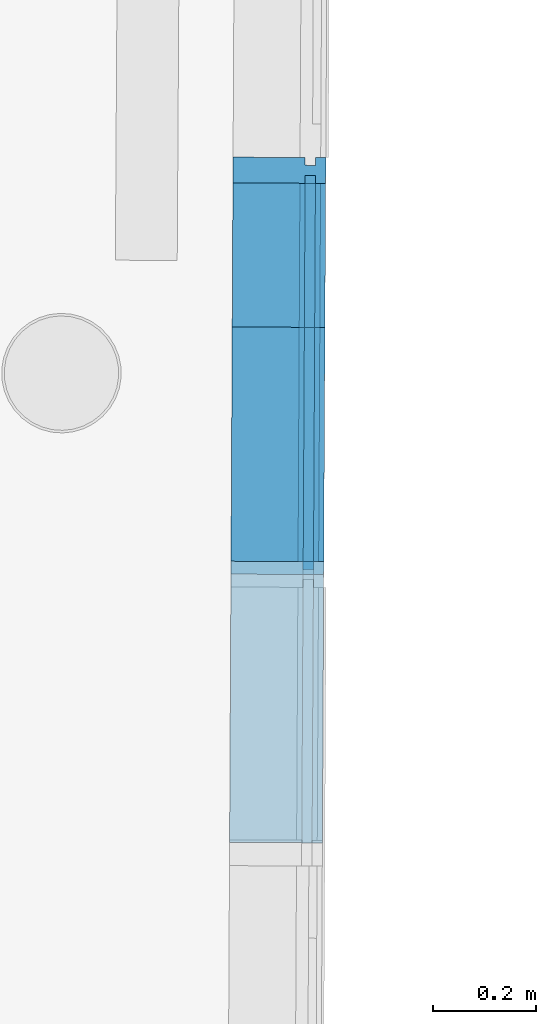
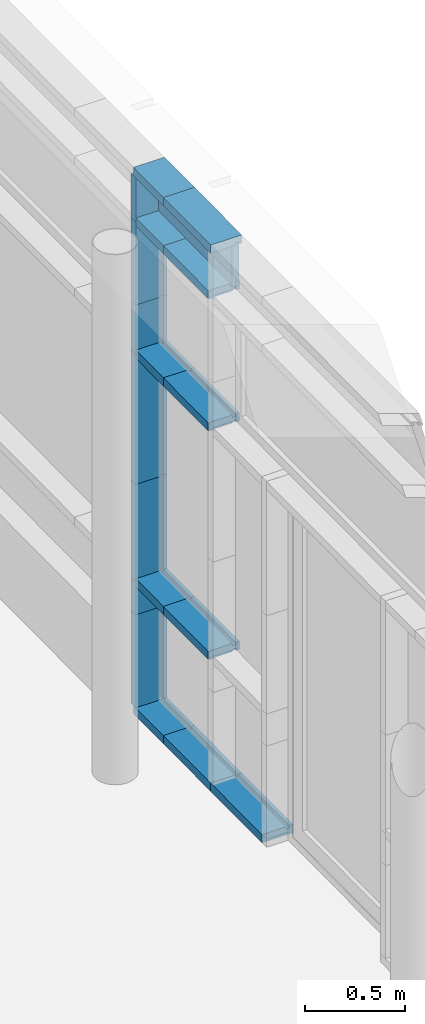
# One storey, part 183 of 196: 19 building element parts, 1 element without a shape of its own.
"""IFC2X3 building model written with IfcOpenShell, lengths in metres."""

from ifc_helpers import new_model, entity, si_unit, converted_unit, derived_unit, money_unit, direction, frame, origin_with_axes, place, context, subcontext, project, spatial, faceted_brep, material, type_object, element, aggregate, save


model = new_model("IFC2X3")

# Units and contexts
model_context = context("Model", 3, precision=1e-05, world=origin_with_axes(), true_north=direction((0.0, 1.0)))
body_context = subcontext(model_context, "Body", "Model", "MODEL_VIEW")
ifc_project = project(units=[si_unit("LENGTHUNIT", "METRE"), si_unit("AREAUNIT", "SQUARE_METRE"), si_unit("VOLUMEUNIT", "CUBIC_METRE"), converted_unit("PLANEANGLEUNIT", "DEGREE", entity("IfcPlaneAngleMeasure", 0.0174532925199), si_unit("PLANEANGLEUNIT", "RADIAN"), dimensions=[0, 0, 0, 0, 0, 0, 0]), money_unit("EUR"), converted_unit("TIMEUNIT", "Year", entity("IfcTimeMeasure", 31556926.0), si_unit("TIMEUNIT", "SECOND"), dimensions=[0, 0, 1, 0, 0, 0, 0]), si_unit("MASSUNIT", "GRAM", prefix="KILO"), si_unit("THERMODYNAMICTEMPERATUREUNIT", "DEGREE_CELSIUS"), si_unit("LUMINOUSINTENSITYUNIT", "LUMEN"), si_unit("ENERGYUNIT", "JOULE", prefix="MEGA"), derived_unit("THERMALCONDUCTANCEUNIT", [(si_unit("POWERUNIT", "WATT"), 1), (si_unit("LENGTHUNIT", "METRE"), -1), (si_unit("THERMODYNAMICTEMPERATUREUNIT", "KELVIN"), -1)]), derived_unit("SPECIFICHEATCAPACITYUNIT", [(si_unit("ENERGYUNIT", "JOULE"), 1), (si_unit("MASSUNIT", "GRAM", prefix="KILO"), -1), (si_unit("THERMODYNAMICTEMPERATUREUNIT", "KELVIN"), -1)]), derived_unit("MASSDENSITYUNIT", [(si_unit("MASSUNIT", "GRAM", prefix="KILO"), 1), (si_unit("VOLUMEUNIT", "CUBIC_METRE"), -1)])], contexts=[model_context])

# Site, building, storey
site_placement = place(None, origin_with_axes())
site = spatial("IfcSite", under=ifc_project, at=site_placement, Name="Gelände", CompositionType="ELEMENT")
building_placement = place(site_placement, origin_with_axes())
building = spatial("IfcBuilding", under=site, at=building_placement, Name="Gebäude", CompositionType="ELEMENT")
storey_placement = place(building_placement, frame((0.0, 0.0, -3.0), z_axis=(0.0, 0.0, 1.0), x_axis=(1.0, 0.0, 0.0)))
storey = spatial("IfcBuildingStorey", under=building, at=storey_placement, Name="KELLERGESCHOSS", CompositionType="ELEMENT", Elevation=-3.0)

# Proxy, building element parts
building_element_proxy_type = type_object("IfcBuildingElementProxyType", Name="Fassadentyp", PredefinedType="NOTDEFINED")
proxy_placement = place(storey_placement, frame((9.16160365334, 37.7476945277, 0.610000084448), z_axis=(0.0, 0.0, 1.0), x_axis=(1.0, 0.0, 0.0)))
proxy = element("IfcBuildingElementProxy", 1, at=proxy_placement, inside=storey, type_object=building_element_proxy_type, Name="Fassade-002")
ifc_material_1 = material(Name="45_Glas, Normalglas")
building_element_part_1_placement = place(proxy_placement, origin_with_axes())
building_element_part_1 = element("IfcBuildingElementPart", 2, at=building_element_part_1_placement, material=ifc_material_1, Name="45_Glas, Normalglas", context=body_context, shape_type="Brep", body=[
    faceted_brep([(0.00515583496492, 4.96256103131, 3.31499994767), (0.00366325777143, 4.66811921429, 3.31499994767), (0.0436627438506, 4.66791644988, 3.31499994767), (0.0451553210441, 4.9623582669, 3.31499994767), (0.00515583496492, 4.96256103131, 3.03949643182), (0.00366325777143, 4.66811921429, 3.03949643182), (0.00128315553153, 4.19859466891, 3.03949643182), (0.00128315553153, 4.19859466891, 3.31499994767), (0.0412826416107, 4.1983919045, 3.31499994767), (0.0412826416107, 4.1983919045, 3.03949643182), (0.0436627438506, 4.66791644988, 3.03949643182), (0.0451553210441, 4.9623582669, 3.03949643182)], [[[0, 1, 2, 3]], [[0, 4, 5, 6, 7, 1]], [[1, 7, 8, 2]], [[3, 2, 8, 9, 10, 11]], [[4, 0, 3, 11]], [[5, 4, 11, 10]], [[6, 5, 10, 9]], [[7, 6, 9, 8]]]),
])
ifc_material_2 = material(Name="53_Metall, Aluminium")
building_element_part_2_placement = place(proxy_placement, origin_with_axes())
building_element_part_2 = element("IfcBuildingElementPart", 3, at=building_element_part_2_placement, material=ifc_material_2, Name="53_Metall, Aluminium", context=body_context, shape_type="Brep", body=[
    faceted_brep([(0.0136631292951, 4.66806852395, 0.0349998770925), (0.0336628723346, 4.66796714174, 0.0349998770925), (0.0336628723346, 4.66796714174, 0.0499998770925), (0.0536626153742, 4.66786575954, 0.0499998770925), (0.0536626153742, 4.66786575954, -1.22907543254e-07), (-0.126335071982, 4.66877819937, -1.22907543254e-07), (-0.126335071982, 4.66877819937, 0.0499998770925), (0.0136631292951, 4.66806852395, 0.0499998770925), (0.0112323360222, 4.18854412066, 0.0349998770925), (0.0312320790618, 4.18844273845, 0.0349998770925), (0.0312320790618, 4.18844273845, 0.0499998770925), (0.0512318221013, 4.18834135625, 0.0499998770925), (0.0512318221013, 4.18834135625, -1.22907543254e-07), (-0.128765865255, 4.18925379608, -1.22907543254e-07), (-0.128765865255, 4.18925379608, 0.0499998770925), (0.0112323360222, 4.18854412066, 0.0499998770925)], [[[0, 1, 2, 3, 4, 5, 6, 7]], [[1, 0, 8, 9]], [[10, 2, 1, 9]], [[2, 10, 11, 3]], [[12, 4, 3, 11]], [[13, 5, 4, 12]], [[14, 6, 5, 13]], [[15, 7, 6, 14]], [[0, 7, 15, 8]], [[8, 15, 14, 13, 12, 11, 10, 9]]]),
])
building_element_part_3_placement = place(proxy_placement, origin_with_axes())
building_element_part_3 = element("IfcBuildingElementPart", 4, at=building_element_part_3_placement, material=ifc_material_2, Name="53_Metall, Aluminium", context=body_context, shape_type="Brep", body=[
    faceted_brep([(0.0136631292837, 4.6680685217, 3.31499994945), (0.0136631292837, 4.6680685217, 3.29999994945), (-0.126335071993, 4.66877819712, 3.29999994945), (-0.126335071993, 4.66877819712, 3.34999994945), (0.0536626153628, 4.66786575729, 3.34999994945), (0.0536626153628, 4.66786575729, 3.29999994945), (0.0336628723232, 4.66796713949, 3.29999994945), (0.0336628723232, 4.66796713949, 3.31499994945), (0.0112323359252, 4.18854410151, 3.31499994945), (0.0112323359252, 4.18854410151, 3.29999994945), (-0.128765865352, 4.18925377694, 3.29999994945), (-0.128765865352, 4.18925377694, 3.34999994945), (0.0512318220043, 4.18834133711, 3.34999994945), (0.0512318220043, 4.18834133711, 3.29999994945), (0.0312320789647, 4.18844271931, 3.29999994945), (0.0312320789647, 4.18844271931, 3.31499994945)], [[[0, 1, 2, 3, 4, 5, 6, 7]], [[0, 8, 9, 1]], [[9, 10, 2, 1]], [[10, 11, 3, 2]], [[11, 12, 4, 3]], [[12, 13, 5, 4]], [[6, 5, 13, 14]], [[14, 15, 7, 6]], [[7, 15, 8, 0]], [[8, 15, 14, 13, 12, 11, 10, 9]]]),
])
building_element_part_4_placement = place(proxy_placement, origin_with_axes())
building_element_part_4 = element("IfcBuildingElementPart", 5, at=building_element_part_4_placement, material=ifc_material_2, Name="53_Metall, Aluminium", context=body_context, shape_type="Brep", body=[
    faceted_brep([(0.0136631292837, 4.6680685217, 0.807169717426), (0.0136631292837, 4.6680685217, 0.792169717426), (-0.126335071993, 4.66877819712, 0.792169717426), (-0.126335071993, 4.66877819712, 0.842169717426), (0.0136631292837, 4.6680685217, 0.842169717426), (0.0136631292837, 4.6680685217, 0.827169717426), (0.0336628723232, 4.66796713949, 0.827169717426), (0.0336628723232, 4.66796713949, 0.842169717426), (0.0536626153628, 4.66786575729, 0.842169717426), (0.0536626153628, 4.66786575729, 0.792169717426), (0.0336628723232, 4.66796713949, 0.792169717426), (0.0336628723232, 4.66796713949, 0.807169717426), (0.0113590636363, 4.21354377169, 0.807169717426), (0.0113590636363, 4.21354377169, 0.792169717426), (-0.128639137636, 4.21425344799, 0.792169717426), (-0.128639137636, 4.21425344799, 0.842169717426), (0.0113590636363, 4.21354377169, 0.842169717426), (0.0113590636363, 4.21354377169, 0.827169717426), (0.0313588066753, 4.21344238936, 0.827169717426), (0.0313588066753, 4.21344238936, 0.842169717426), (0.0513585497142, 4.21334100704, 0.842169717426), (0.0513585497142, 4.21334100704, 0.792169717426), (0.0313588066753, 4.21344238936, 0.792169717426), (0.0313588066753, 4.21344238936, 0.807169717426)], [[[0, 1, 2, 3, 4, 5, 6, 7, 8, 9, 10, 11]], [[1, 0, 12, 13]], [[1, 13, 14, 2]], [[2, 14, 15, 3]], [[4, 3, 15, 16]], [[4, 16, 17, 5]], [[5, 17, 18, 6]], [[7, 6, 18, 19]], [[19, 20, 8, 7]], [[8, 20, 21, 9]], [[22, 10, 9, 21]], [[11, 10, 22, 23]], [[0, 11, 23, 12]], [[23, 22, 21, 20, 19, 18, 17, 16, 15, 14, 13, 12]]]),
])
building_element_part_5_placement = place(proxy_placement, origin_with_axes())
building_element_part_5 = element("IfcBuildingElementPart", 6, at=building_element_part_5_placement, material=ifc_material_2, Name="53_Metall, Aluminium", context=body_context, shape_type="Brep", body=[
    faceted_brep([(0.0136631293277, 4.66806853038, 3.01949642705), (0.0136631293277, 4.66806853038, 3.00449642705), (-0.126335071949, 4.66877820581, 3.00449642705), (-0.126335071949, 4.66877820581, 3.05449642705), (0.0136631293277, 4.66806853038, 3.05449642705), (0.0136631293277, 4.66806853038, 3.03949642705), (0.0336628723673, 4.66796714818, 3.03949642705), (0.0336628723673, 4.66796714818, 3.05449642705), (0.0536626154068, 4.66786576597, 3.05449642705), (0.0536626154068, 4.66786576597, 3.00449642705), (0.0336628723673, 4.66796714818, 3.00449642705), (0.0336628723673, 4.66796714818, 3.01949642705), (0.0113590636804, 4.21354378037, 3.01949642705), (0.0113590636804, 4.21354378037, 3.00449642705), (-0.128639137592, 4.21425345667, 3.00449642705), (-0.128639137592, 4.21425345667, 3.05449642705), (0.0113590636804, 4.21354378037, 3.05449642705), (0.0113590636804, 4.21354378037, 3.03949642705), (0.0313588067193, 4.21344239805, 3.03949642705), (0.0313588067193, 4.21344239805, 3.05449642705), (0.0513585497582, 4.21334101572, 3.05449642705), (0.0513585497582, 4.21334101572, 3.00449642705), (0.0313588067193, 4.21344239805, 3.00449642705), (0.0313588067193, 4.21344239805, 3.01949642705)], [[[0, 1, 2, 3, 4, 5, 6, 7, 8, 9, 10, 11]], [[1, 0, 12, 13]], [[1, 13, 14, 2]], [[2, 14, 15, 3]], [[4, 3, 15, 16]], [[4, 16, 17, 5]], [[5, 17, 18, 6]], [[7, 6, 18, 19]], [[19, 20, 8, 7]], [[8, 20, 21, 9]], [[22, 10, 9, 21]], [[11, 10, 22, 23]], [[0, 11, 23, 12]], [[23, 22, 21, 20, 19, 18, 17, 16, 15, 14, 13, 12]]]),
])
building_element_part_6_placement = place(proxy_placement, origin_with_axes())
building_element_part_6 = element("IfcBuildingElementPart", 7, at=building_element_part_6_placement, material=ifc_material_2, Name="53_Metall, Aluminium", context=body_context, shape_type="Brep", body=[
    faceted_brep([(0.0136631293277, 4.66806853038, 2.20916310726), (0.0136631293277, 4.66806853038, 2.19416310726), (-0.126335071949, 4.66877820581, 2.19416310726), (-0.126335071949, 4.66877820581, 2.24416310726), (0.0136631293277, 4.66806853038, 2.24416310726), (0.0136631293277, 4.66806853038, 2.22916310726), (0.0336628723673, 4.66796714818, 2.22916310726), (0.0336628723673, 4.66796714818, 2.24416310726), (0.0536626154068, 4.66786576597, 2.24416310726), (0.0536626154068, 4.66786576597, 2.19416310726), (0.0336628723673, 4.66796714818, 2.19416310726), (0.0336628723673, 4.66796714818, 2.20916310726), (0.0113590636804, 4.21354378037, 2.20916310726), (0.0113590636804, 4.21354378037, 2.19416310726), (-0.128639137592, 4.21425345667, 2.19416310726), (-0.128639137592, 4.21425345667, 2.24416310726), (0.0113590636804, 4.21354378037, 2.24416310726), (0.0113590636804, 4.21354378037, 2.22916310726), (0.0313588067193, 4.21344239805, 2.22916310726), (0.0313588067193, 4.21344239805, 2.24416310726), (0.0513585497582, 4.21334101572, 2.24416310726), (0.0513585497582, 4.21334101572, 2.19416310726), (0.0313588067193, 4.21344239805, 2.19416310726), (0.0313588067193, 4.21344239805, 2.20916310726)], [[[0, 1, 2, 3, 4, 5, 6, 7, 8, 9, 10, 11]], [[1, 0, 12, 13]], [[1, 13, 14, 2]], [[2, 14, 15, 3]], [[4, 3, 15, 16]], [[4, 16, 17, 5]], [[5, 17, 18, 6]], [[7, 6, 18, 19]], [[19, 20, 8, 7]], [[8, 20, 21, 9]], [[22, 10, 9, 21]], [[11, 10, 22, 23]], [[0, 11, 23, 12]], [[23, 22, 21, 20, 19, 18, 17, 16, 15, 14, 13, 12]]]),
])
building_element_part_7_placement = place(proxy_placement, origin_with_axes())
building_element_part_7 = element("IfcBuildingElementPart", 8, at=building_element_part_7_placement, material=ifc_material_2, Name="53_Metall, Aluminium", context=body_context, shape_type="Brep", body=[
    faceted_brep([(0.0112323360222, 4.18854412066, 0.0349998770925), (0.0312320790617, 4.18844273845, 0.0349998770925), (0.0312320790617, 4.18844273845, 0.0499998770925), (0.0512318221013, 4.18834135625, 0.0499998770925), (0.0512318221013, 4.18834135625, -1.22907543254e-07), (-0.128765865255, 4.18925379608, -1.22907543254e-07), (-0.128765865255, 4.18925379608, 0.0499998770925), (0.0112323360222, 4.18854412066, 0.0499998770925), (0.00859401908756, 3.66808136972, 0.0349998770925), (0.0285937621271, 3.66797998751, 0.0349998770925), (0.0285937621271, 3.66797998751, 0.0499998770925), (0.0485935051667, 3.66787860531, 0.0499998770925), (0.0485935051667, 3.66787860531, -1.22907543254e-07), (-0.131404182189, 3.66879104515, -1.22907543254e-07), (-0.131404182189, 3.66879104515, 0.0499998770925), (0.00859401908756, 3.66808136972, 0.0499998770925)], [[[0, 1, 2, 3, 4, 5, 6, 7]], [[1, 0, 8, 9]], [[10, 2, 1, 9]], [[2, 10, 11, 3]], [[12, 4, 3, 11]], [[13, 5, 4, 12]], [[14, 6, 5, 13]], [[15, 7, 6, 14]], [[0, 7, 15, 8]], [[8, 15, 14, 13, 12, 11, 10, 9]]]),
])
building_element_part_8_placement = place(proxy_placement, origin_with_axes())
building_element_part_8 = element("IfcBuildingElementPart", 9, at=building_element_part_8_placement, material=ifc_material_2, Name="53_Metall, Aluminium", context=body_context, shape_type="Brep", body=[
    faceted_brep([(0.0152570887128, 4.98251008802, 3.29999996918), (0.0153331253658, 4.9975098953, 3.29999996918), (-0.124665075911, 4.99821957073, 3.29999996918), (-0.124918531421, 4.94822021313, 3.29999996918), (0.015079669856, 4.9475105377, 3.29999996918), (0.0151557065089, 4.96251034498, 3.29999996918), (0.0351554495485, 4.96240896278, 3.29999996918), (0.0350794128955, 4.9474091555, 3.29999996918), (0.0550791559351, 4.94730777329, 3.29999996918), (0.0553326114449, 4.99730713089, 3.29999996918), (0.0353328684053, 4.9974085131, 3.29999996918), (0.0352568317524, 4.98240870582, 3.29999996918), (0.0152570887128, 4.98251008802, 3.02949642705), (0.0153331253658, 4.9975098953, 3.02949642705), (-0.124665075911, 4.99821957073, 3.02949642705), (-0.124918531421, 4.94822021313, 3.02949642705), (0.015079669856, 4.9475105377, 3.02949642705), (0.0151557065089, 4.96251034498, 3.02949642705), (0.0351554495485, 4.96240896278, 3.02949642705), (0.0350794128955, 4.9474091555, 3.02949642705), (0.0550791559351, 4.94730777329, 3.02949642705), (0.0553326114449, 4.99730713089, 3.02949642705), (0.0353328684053, 4.9974085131, 3.02949642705), (0.0352568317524, 4.98240870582, 3.02949642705)], [[[0, 1, 2, 3, 4, 5, 6, 7, 8, 9, 10, 11]], [[1, 0, 12, 13]], [[1, 13, 14, 2]], [[3, 2, 14, 15]], [[4, 3, 15, 16]], [[4, 16, 17, 5]], [[5, 17, 18, 6]], [[7, 6, 18, 19]], [[19, 20, 8, 7]], [[9, 8, 20, 21]], [[22, 10, 9, 21]], [[11, 10, 22, 23]], [[0, 11, 23, 12]], [[23, 22, 21, 20, 19, 18, 17, 16, 15, 14, 13, 12]]]),
])
building_element_part_9_placement = place(proxy_placement, origin_with_axes())
building_element_part_9 = element("IfcBuildingElementPart", 10, at=building_element_part_9_placement, material=ifc_material_2, Name="53_Metall, Aluminium", context=body_context, shape_type="Brep", body=[
    faceted_brep([(0.015079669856, 4.9475105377, 3.01949642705), (0.015079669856, 4.9475105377, 3.00449642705), (-0.124918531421, 4.94822021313, 3.00449642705), (-0.124918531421, 4.94822021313, 3.05449642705), (0.015079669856, 4.9475105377, 3.05449642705), (0.015079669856, 4.9475105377, 3.03949642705), (0.0350794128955, 4.9474091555, 3.03949642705), (0.0350794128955, 4.9474091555, 3.05449642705), (0.0550791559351, 4.94730777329, 3.05449642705), (0.0550791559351, 4.94730777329, 3.00449642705), (0.0350794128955, 4.9474091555, 3.00449642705), (0.0350794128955, 4.9474091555, 3.01949642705), (0.0136631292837, 4.6680685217, 3.01949642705), (0.0136631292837, 4.6680685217, 3.00449642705), (-0.126335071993, 4.66877819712, 3.00449642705), (-0.126335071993, 4.66877819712, 3.05449642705), (0.0136631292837, 4.6680685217, 3.05449642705), (0.0136631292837, 4.6680685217, 3.03949642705), (0.0336628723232, 4.66796713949, 3.03949642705), (0.0336628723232, 4.66796713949, 3.05449642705), (0.0536626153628, 4.66786575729, 3.05449642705), (0.0536626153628, 4.66786575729, 3.00449642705), (0.0336628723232, 4.66796713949, 3.00449642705), (0.0336628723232, 4.66796713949, 3.01949642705)], [[[0, 1, 2, 3, 4, 5, 6, 7, 8, 9, 10, 11]], [[1, 0, 12, 13]], [[1, 13, 14, 2]], [[3, 2, 14, 15]], [[4, 3, 15, 16]], [[4, 16, 17, 5]], [[5, 17, 18, 6]], [[7, 6, 18, 19]], [[19, 20, 8, 7]], [[9, 8, 20, 21]], [[22, 10, 9, 21]], [[11, 10, 22, 23]], [[0, 11, 23, 12]], [[23, 22, 21, 20, 19, 18, 17, 16, 15, 14, 13, 12]]]),
])
building_element_part_10_placement = place(proxy_placement, origin_with_axes())
building_element_part_10 = element("IfcBuildingElementPart", 11, at=building_element_part_10_placement, material=ifc_material_2, Name="53_Metall, Aluminium", context=body_context, shape_type="Brep", body=[
    faceted_brep([(0.0152063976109, 4.9725102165, 3.31499994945), (0.0152063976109, 4.9725102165, 3.29999994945), (-0.124791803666, 4.97321989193, 3.29999994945), (-0.124791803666, 4.97321989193, 3.34999994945), (0.05520588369, 4.97230745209, 3.34999994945), (0.05520588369, 4.97230745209, 3.29999994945), (0.0352061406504, 4.9724088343, 3.29999994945), (0.0352061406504, 4.9724088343, 3.31499994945), (0.0136631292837, 4.6680685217, 3.31499994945), (0.0136631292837, 4.6680685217, 3.29999994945), (-0.126335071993, 4.66877819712, 3.29999994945), (-0.126335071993, 4.66877819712, 3.34999994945), (0.0536626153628, 4.66786575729, 3.34999994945), (0.0536626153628, 4.66786575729, 3.29999994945), (0.0336628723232, 4.66796713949, 3.29999994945), (0.0336628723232, 4.66796713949, 3.31499994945)], [[[0, 1, 2, 3, 4, 5, 6, 7]], [[0, 8, 9, 1]], [[9, 10, 2, 1]], [[10, 11, 3, 2]], [[11, 12, 4, 3]], [[12, 13, 5, 4]], [[6, 5, 13, 14]], [[14, 15, 7, 6]], [[7, 15, 8, 0]], [[8, 15, 14, 13, 12, 11, 10, 9]]]),
])
building_element_part_11_placement = place(proxy_placement, origin_with_axes())
building_element_part_11 = element("IfcBuildingElementPart", 12, at=building_element_part_11_placement, material=ifc_material_2, Name="53_Metall, Aluminium", context=body_context, shape_type="Brep", body=[
    faceted_brep([(0.0152570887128, 4.98251008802, 3.02949640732), (0.0153331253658, 4.9975098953, 3.02949640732), (-0.124665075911, 4.99821957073, 3.02949640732), (-0.124918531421, 4.94822021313, 3.02949640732), (0.015079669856, 4.9475105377, 3.02949640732), (0.0151557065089, 4.96251034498, 3.02949640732), (0.0351554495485, 4.96240896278, 3.02949640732), (0.0350794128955, 4.9474091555, 3.02949640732), (0.0550791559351, 4.94730777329, 3.02949640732), (0.0553326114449, 4.99730713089, 3.02949640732), (0.0353328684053, 4.9974085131, 3.02949640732), (0.0352568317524, 4.98240870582, 3.02949640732), (0.0152570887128, 4.98251008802, 2.51999991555), (0.0153331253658, 4.9975098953, 2.51999991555), (-0.124665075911, 4.99821957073, 2.51999991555), (-0.124918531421, 4.94822021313, 2.51999991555), (0.015079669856, 4.9475105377, 2.51999991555), (0.0151557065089, 4.96251034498, 2.51999991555), (0.0351554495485, 4.96240896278, 2.51999991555), (0.0350794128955, 4.9474091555, 2.51999991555), (0.0550791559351, 4.94730777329, 2.51999991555), (0.0553326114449, 4.99730713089, 2.51999991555), (0.0353328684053, 4.9974085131, 2.51999991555), (0.0352568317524, 4.98240870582, 2.51999991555)], [[[0, 1, 2, 3, 4, 5, 6, 7, 8, 9, 10, 11]], [[1, 0, 12, 13]], [[1, 13, 14, 2]], [[3, 2, 14, 15]], [[4, 3, 15, 16]], [[4, 16, 17, 5]], [[5, 17, 18, 6]], [[7, 6, 18, 19]], [[19, 20, 8, 7]], [[9, 8, 20, 21]], [[22, 10, 9, 21]], [[11, 10, 22, 23]], [[0, 11, 23, 12]], [[23, 22, 21, 20, 19, 18, 17, 16, 15, 14, 13, 12]]]),
])
building_element_part_12_placement = place(proxy_placement, origin_with_axes())
building_element_part_12 = element("IfcBuildingElementPart", 13, at=building_element_part_12_placement, material=ifc_material_2, Name="53_Metall, Aluminium", context=body_context, shape_type="Brep", body=[
    faceted_brep([(0.0152570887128, 4.98251008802, 2.51999992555), (0.0153331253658, 4.9975098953, 2.51999992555), (-0.124665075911, 4.99821957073, 2.51999992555), (-0.124918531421, 4.94822021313, 2.51999992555), (0.015079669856, 4.9475105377, 2.51999992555), (0.0151557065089, 4.96251034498, 2.51999992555), (0.0351554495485, 4.96240896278, 2.51999992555), (0.0350794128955, 4.9474091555, 2.51999992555), (0.0550791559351, 4.94730777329, 2.51999992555), (0.0553326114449, 4.99730713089, 2.51999992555), (0.0353328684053, 4.9974085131, 2.51999992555), (0.0352568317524, 4.98240870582, 2.51999992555), (0.0152570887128, 4.98251008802, 2.21916310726), (0.0153331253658, 4.9975098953, 2.21916310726), (-0.124665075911, 4.99821957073, 2.21916310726), (-0.124918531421, 4.94822021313, 2.21916310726), (0.015079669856, 4.9475105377, 2.21916310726), (0.0151557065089, 4.96251034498, 2.21916310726), (0.0351554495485, 4.96240896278, 2.21916310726), (0.0350794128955, 4.9474091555, 2.21916310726), (0.0550791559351, 4.94730777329, 2.21916310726), (0.0553326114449, 4.99730713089, 2.21916310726), (0.0353328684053, 4.9974085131, 2.21916310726), (0.0352568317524, 4.98240870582, 2.21916310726)], [[[0, 1, 2, 3, 4, 5, 6, 7, 8, 9, 10, 11]], [[1, 0, 12, 13]], [[1, 13, 14, 2]], [[3, 2, 14, 15]], [[4, 3, 15, 16]], [[4, 16, 17, 5]], [[5, 17, 18, 6]], [[7, 6, 18, 19]], [[19, 20, 8, 7]], [[9, 8, 20, 21]], [[22, 10, 9, 21]], [[11, 10, 22, 23]], [[0, 11, 23, 12]], [[23, 22, 21, 20, 19, 18, 17, 16, 15, 14, 13, 12]]]),
])
building_element_part_13_placement = place(proxy_placement, origin_with_axes())
building_element_part_13 = element("IfcBuildingElementPart", 14, at=building_element_part_13_placement, material=ifc_material_2, Name="53_Metall, Aluminium", context=body_context, shape_type="Brep", body=[
    faceted_brep([(0.015079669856, 4.9475105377, 2.20916310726), (0.015079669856, 4.9475105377, 2.19416310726), (-0.124918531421, 4.94822021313, 2.19416310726), (-0.124918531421, 4.94822021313, 2.24416310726), (0.015079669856, 4.9475105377, 2.24416310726), (0.015079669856, 4.9475105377, 2.22916310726), (0.0350794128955, 4.9474091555, 2.22916310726), (0.0350794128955, 4.9474091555, 2.24416310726), (0.0550791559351, 4.94730777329, 2.24416310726), (0.0550791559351, 4.94730777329, 2.19416310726), (0.0350794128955, 4.9474091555, 2.19416310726), (0.0350794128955, 4.9474091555, 2.20916310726), (0.0136631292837, 4.6680685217, 2.20916310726), (0.0136631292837, 4.6680685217, 2.19416310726), (-0.126335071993, 4.66877819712, 2.19416310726), (-0.126335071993, 4.66877819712, 2.24416310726), (0.0136631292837, 4.6680685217, 2.24416310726), (0.0136631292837, 4.6680685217, 2.22916310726), (0.0336628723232, 4.66796713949, 2.22916310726), (0.0336628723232, 4.66796713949, 2.24416310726), (0.0536626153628, 4.66786575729, 2.24416310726), (0.0536626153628, 4.66786575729, 2.19416310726), (0.0336628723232, 4.66796713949, 2.19416310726), (0.0336628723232, 4.66796713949, 2.20916310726)], [[[0, 1, 2, 3, 4, 5, 6, 7, 8, 9, 10, 11]], [[1, 0, 12, 13]], [[1, 13, 14, 2]], [[3, 2, 14, 15]], [[4, 3, 15, 16]], [[4, 16, 17, 5]], [[5, 17, 18, 6]], [[7, 6, 18, 19]], [[19, 20, 8, 7]], [[9, 8, 20, 21]], [[22, 10, 9, 21]], [[11, 10, 22, 23]], [[0, 11, 23, 12]], [[23, 22, 21, 20, 19, 18, 17, 16, 15, 14, 13, 12]]]),
])
building_element_part_14_placement = place(proxy_placement, origin_with_axes())
building_element_part_14 = element("IfcBuildingElementPart", 15, at=building_element_part_14_placement, material=ifc_material_2, Name="53_Metall, Aluminium", context=body_context, shape_type="Brep", body=[
    faceted_brep([(0.0152570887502, 4.98251009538, 2.21916309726), (0.0153331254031, 4.99750990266, 2.21916309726), (-0.124665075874, 4.99821957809, 2.21916309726), (-0.124918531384, 4.94822022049, 2.21916309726), (0.0150796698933, 4.94751054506, 2.21916309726), (0.0151557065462, 4.96251035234, 2.21916309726), (0.0351554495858, 4.96240897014, 2.21916309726), (0.0350794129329, 4.94740916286, 2.21916309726), (0.0550791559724, 4.94730778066, 2.21916309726), (0.0553326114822, 4.99730713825, 2.21916309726), (0.0353328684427, 4.99740852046, 2.21916309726), (0.0352568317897, 4.98240871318, 2.21916309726), (0.0152570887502, 4.98251009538, 1.41999991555), (0.0153331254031, 4.99750990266, 1.41999991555), (-0.124665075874, 4.99821957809, 1.41999991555), (-0.124918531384, 4.94822022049, 1.41999991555), (0.0150796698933, 4.94751054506, 1.41999991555), (0.0151557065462, 4.96251035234, 1.41999991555), (0.0351554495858, 4.96240897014, 1.41999991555), (0.0350794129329, 4.94740916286, 1.41999991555), (0.0550791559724, 4.94730778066, 1.41999991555), (0.0553326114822, 4.99730713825, 1.41999991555), (0.0353328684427, 4.99740852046, 1.41999991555), (0.0352568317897, 4.98240871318, 1.41999991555)], [[[0, 1, 2, 3, 4, 5, 6, 7, 8, 9, 10, 11]], [[1, 0, 12, 13]], [[1, 13, 14, 2]], [[3, 2, 14, 15]], [[4, 3, 15, 16]], [[4, 16, 17, 5]], [[5, 17, 18, 6]], [[7, 6, 18, 19]], [[19, 20, 8, 7]], [[9, 8, 20, 21]], [[22, 10, 9, 21]], [[11, 10, 22, 23]], [[0, 11, 23, 12]], [[23, 22, 21, 20, 19, 18, 17, 16, 15, 14, 13, 12]]]),
])
building_element_part_15_placement = place(proxy_placement, origin_with_axes())
building_element_part_15 = element("IfcBuildingElementPart", 16, at=building_element_part_15_placement, material=ifc_material_2, Name="53_Metall, Aluminium", context=body_context, shape_type="Brep", body=[
    faceted_brep([(0.0152570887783, 4.98251010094, 1.41999990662), (0.0153331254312, 4.99750990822, 1.41999990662), (-0.124665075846, 4.99821958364, 1.41999990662), (-0.124918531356, 4.94822022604, 1.41999990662), (0.0150796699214, 4.94751055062, 1.41999990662), (0.0151557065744, 4.9625103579, 1.41999990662), (0.0351554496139, 4.96240897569, 1.41999990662), (0.035079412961, 4.94740916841, 1.41999990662), (0.0550791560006, 4.94730778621, 1.41999990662), (0.0553326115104, 4.99730714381, 1.41999990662), (0.0353328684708, 4.99740852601, 1.41999990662), (0.0352568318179, 4.98240871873, 1.41999990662), (0.0152570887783, 4.98251010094, 0.817169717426), (0.0153331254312, 4.99750990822, 0.817169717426), (-0.124665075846, 4.99821958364, 0.817169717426), (-0.124918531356, 4.94822022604, 0.817169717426), (0.0150796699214, 4.94751055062, 0.817169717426), (0.0151557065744, 4.9625103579, 0.817169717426), (0.0351554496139, 4.96240897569, 0.817169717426), (0.035079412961, 4.94740916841, 0.817169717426), (0.0550791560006, 4.94730778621, 0.817169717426), (0.0553326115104, 4.99730714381, 0.817169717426), (0.0353328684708, 4.99740852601, 0.817169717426), (0.0352568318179, 4.98240871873, 0.817169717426)], [[[0, 1, 2, 3, 4, 5, 6, 7, 8, 9, 10, 11]], [[1, 0, 12, 13]], [[1, 13, 14, 2]], [[3, 2, 14, 15]], [[4, 3, 15, 16]], [[4, 16, 17, 5]], [[5, 17, 18, 6]], [[7, 6, 18, 19]], [[19, 20, 8, 7]], [[9, 8, 20, 21]], [[22, 10, 9, 21]], [[11, 10, 22, 23]], [[0, 11, 23, 12]], [[23, 22, 21, 20, 19, 18, 17, 16, 15, 14, 13, 12]]]),
])
building_element_part_16_placement = place(proxy_placement, origin_with_axes())
building_element_part_16 = element("IfcBuildingElementPart", 17, at=building_element_part_16_placement, material=ifc_material_2, Name="53_Metall, Aluminium", context=body_context, shape_type="Brep", body=[
    faceted_brep([(0.015079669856, 4.9475105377, 0.807169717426), (0.015079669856, 4.9475105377, 0.792169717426), (-0.124918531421, 4.94822021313, 0.792169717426), (-0.124918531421, 4.94822021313, 0.842169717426), (0.015079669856, 4.9475105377, 0.842169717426), (0.015079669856, 4.9475105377, 0.827169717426), (0.0350794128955, 4.9474091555, 0.827169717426), (0.0350794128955, 4.9474091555, 0.842169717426), (0.0550791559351, 4.94730777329, 0.842169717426), (0.0550791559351, 4.94730777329, 0.792169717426), (0.0350794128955, 4.9474091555, 0.792169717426), (0.0350794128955, 4.9474091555, 0.807169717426), (0.0136631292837, 4.6680685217, 0.807169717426), (0.0136631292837, 4.6680685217, 0.792169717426), (-0.126335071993, 4.66877819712, 0.792169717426), (-0.126335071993, 4.66877819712, 0.842169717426), (0.0136631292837, 4.6680685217, 0.842169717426), (0.0136631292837, 4.6680685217, 0.827169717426), (0.0336628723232, 4.66796713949, 0.827169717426), (0.0336628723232, 4.66796713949, 0.842169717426), (0.0536626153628, 4.66786575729, 0.842169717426), (0.0536626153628, 4.66786575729, 0.792169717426), (0.0336628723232, 4.66796713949, 0.792169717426), (0.0336628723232, 4.66796713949, 0.807169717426)], [[[0, 1, 2, 3, 4, 5, 6, 7, 8, 9, 10, 11]], [[1, 0, 12, 13]], [[1, 13, 14, 2]], [[3, 2, 14, 15]], [[4, 3, 15, 16]], [[4, 16, 17, 5]], [[5, 17, 18, 6]], [[7, 6, 18, 19]], [[19, 20, 8, 7]], [[9, 8, 20, 21]], [[22, 10, 9, 21]], [[11, 10, 22, 23]], [[0, 11, 23, 12]], [[23, 22, 21, 20, 19, 18, 17, 16, 15, 14, 13, 12]]]),
])
building_element_part_17_placement = place(proxy_placement, origin_with_axes())
building_element_part_17 = element("IfcBuildingElementPart", 18, at=building_element_part_17_placement, material=ifc_material_2, Name="53_Metall, Aluminium", context=body_context, shape_type="Brep", body=[
    faceted_brep([(0.0152570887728, 4.98251009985, 0.817169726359), (0.0153331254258, 4.99750990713, 0.817169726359), (-0.124665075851, 4.99821958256, 0.817169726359), (-0.124918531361, 4.94822022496, 0.817169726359), (0.015079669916, 4.94751054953, 0.817169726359), (0.0151557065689, 4.96251035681, 0.817169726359), (0.0351554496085, 4.96240897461, 0.817169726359), (0.0350794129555, 4.94740916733, 0.817169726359), (0.0550791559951, 4.94730778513, 0.817169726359), (0.0553326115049, 4.99730714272, 0.817169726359), (0.0353328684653, 4.99740852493, 0.817169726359), (0.0352568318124, 4.98240871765, 0.817169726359), (0.0152570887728, 4.98251009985, 0.619999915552), (0.0153331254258, 4.99750990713, 0.619999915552), (-0.124665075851, 4.99821958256, 0.619999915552), (-0.124918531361, 4.94822022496, 0.619999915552), (0.015079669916, 4.94751054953, 0.619999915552), (0.0151557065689, 4.96251035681, 0.619999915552), (0.0351554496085, 4.96240897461, 0.619999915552), (0.0350794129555, 4.94740916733, 0.619999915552), (0.0550791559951, 4.94730778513, 0.619999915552), (0.0553326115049, 4.99730714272, 0.619999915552), (0.0353328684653, 4.99740852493, 0.619999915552), (0.0352568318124, 4.98240871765, 0.619999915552)], [[[0, 1, 2, 3, 4, 5, 6, 7, 8, 9, 10, 11]], [[1, 0, 12, 13]], [[1, 13, 14, 2]], [[3, 2, 14, 15]], [[4, 3, 15, 16]], [[4, 16, 17, 5]], [[5, 17, 18, 6]], [[7, 6, 18, 19]], [[19, 20, 8, 7]], [[9, 8, 20, 21]], [[22, 10, 9, 21]], [[11, 10, 22, 23]], [[0, 11, 23, 12]], [[23, 22, 21, 20, 19, 18, 17, 16, 15, 14, 13, 12]]]),
])
building_element_part_18_placement = place(proxy_placement, origin_with_axes())
building_element_part_18 = element("IfcBuildingElementPart", 19, at=building_element_part_18_placement, material=ifc_material_2, Name="53_Metall, Aluminium", context=body_context, shape_type="Brep", body=[
    faceted_brep([(0.0152570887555, 4.98251009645, 0.619999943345), (0.0153331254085, 4.99750990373, 0.619999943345), (-0.124665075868, 4.99821957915, 0.619999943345), (-0.124918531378, 4.94822022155, 0.619999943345), (0.0150796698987, 4.94751054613, 0.619999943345), (0.0151557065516, 4.96251035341, 0.619999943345), (0.0351554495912, 4.9624089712, 0.619999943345), (0.0350794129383, 4.94740916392, 0.619999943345), (0.0550791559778, 4.94730778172, 0.619999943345), (0.0553326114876, 4.99730713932, 0.619999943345), (0.0353328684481, 4.99740852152, 0.619999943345), (0.0352568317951, 4.98240871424, 0.619999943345), (0.0152570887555, 4.98251009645, 0.0499999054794), (0.0153331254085, 4.99750990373, 0.0499999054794), (-0.124665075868, 4.99821957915, 0.0499999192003), (-0.124918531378, 4.94822022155, 0.0499999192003), (0.0150796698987, 4.94751054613, 0.0499999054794), (0.0151557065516, 4.96251035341, 0.0499999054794), (0.0351554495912, 4.9624089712, 0.0499999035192), (0.0350794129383, 4.94740916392, 0.0499999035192), (0.0550791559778, 4.94730778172, 0.0499999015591), (0.0553326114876, 4.99730713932, 0.0499999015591), (0.0353328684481, 4.99740852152, 0.0499999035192), (0.0352568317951, 4.98240871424, 0.0499999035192)], [[[0, 1, 2, 3, 4, 5, 6, 7, 8, 9, 10, 11]], [[1, 0, 12, 13]], [[1, 13, 14, 2]], [[2, 14, 15, 3]], [[4, 3, 15, 16]], [[4, 16, 17, 5]], [[5, 17, 18, 6]], [[7, 6, 18, 19]], [[19, 20, 8, 7]], [[8, 20, 21, 9]], [[22, 10, 9, 21]], [[11, 10, 22, 23]], [[0, 11, 23, 12]], [[23, 22, 21, 20, 19, 18, 17, 16, 15, 14, 13, 12]]]),
])
building_element_part_19_placement = place(proxy_placement, origin_with_axes())
building_element_part_19 = element("IfcBuildingElementPart", 20, at=building_element_part_19_placement, material=ifc_material_2, Name="53_Metall, Aluminium", context=body_context, shape_type="Brep", body=[
    faceted_brep([(0.0152063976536, 4.97251022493, 0.0349998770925), (0.0352061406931, 4.97240884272, 0.0349998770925), (0.0352061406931, 4.97240884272, 0.0499998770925), (0.0552058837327, 4.97230746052, 0.0499998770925), (0.0552058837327, 4.97230746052, -1.22907543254e-07), (-0.124791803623, 4.97321990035, -1.22907543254e-07), (-0.124791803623, 4.97321990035, 0.0499998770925), (0.0152063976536, 4.97251022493, 0.0499998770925), (0.0136631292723, 4.66806851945, 0.0349998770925), (0.0336628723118, 4.66796713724, 0.0349998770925), (0.0336628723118, 4.66796713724, 0.0499998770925), (0.0536626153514, 4.66786575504, 0.0499998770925), (0.0536626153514, 4.66786575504, -1.22907543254e-07), (-0.126335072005, 4.66877819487, -1.22907543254e-07), (-0.126335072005, 4.66877819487, 0.0499998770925), (0.0136631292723, 4.66806851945, 0.0499998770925)], [[[0, 1, 2, 3, 4, 5, 6, 7]], [[1, 0, 8, 9]], [[10, 2, 1, 9]], [[2, 10, 11, 3]], [[12, 4, 3, 11]], [[13, 5, 4, 12]], [[14, 6, 5, 13]], [[15, 7, 6, 14]], [[0, 7, 15, 8]], [[8, 15, 14, 13, 12, 11, 10, 9]]]),
])
aggregate(proxy, [building_element_part_1, building_element_part_2, building_element_part_3, building_element_part_4, building_element_part_5, building_element_part_6, building_element_part_7, building_element_part_8, building_element_part_9, building_element_part_10, building_element_part_11, building_element_part_12, building_element_part_13, building_element_part_14, building_element_part_15, building_element_part_16, building_element_part_17, building_element_part_18, building_element_part_19])

save(model, "model.ifc")
